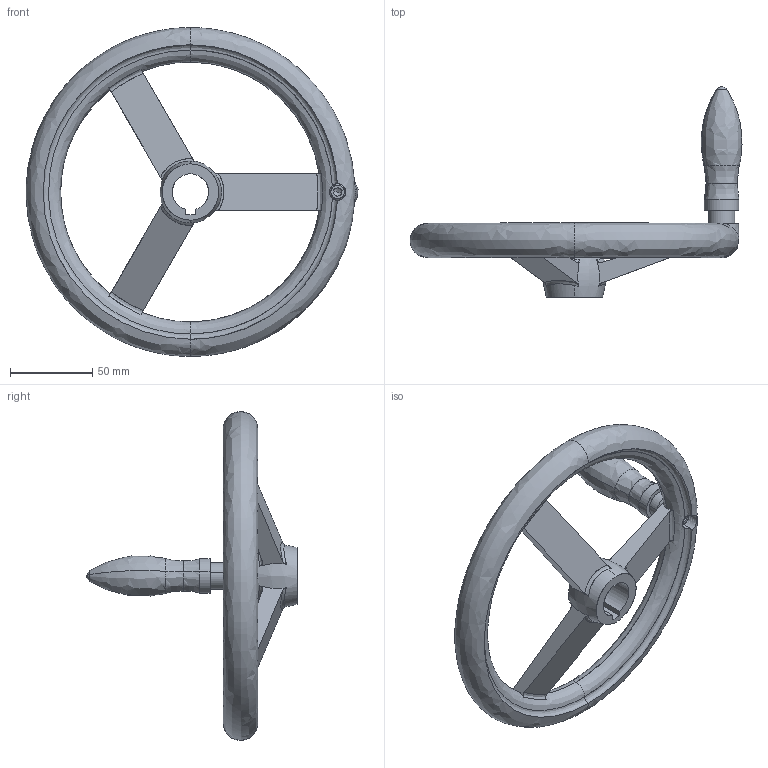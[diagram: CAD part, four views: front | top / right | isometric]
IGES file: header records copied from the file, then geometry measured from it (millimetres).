
Start section: SolidWorks IGES file using analytic representation for surfaces
Global section: file name: C:\Users\IanO\Desktop\Temp File\Process pending\77120_v2\77120_v2_20171108_IGES\77120.W0331.igs; native system: SolidWorks 2017; preprocessor: SolidWorks 2017; author: IanO; date: 171108.084553; units: millimetre
Bounding box: 201.88 x 128 x 200 mm (x, y, z)
Surface area: 65794.5 mm2 (no closed solid volume)
Topology: 0 solids, 0 shells, 134 faces, 1880 edges, 1873 vertices
Faces by surface type: bspline 77, revolution 57
